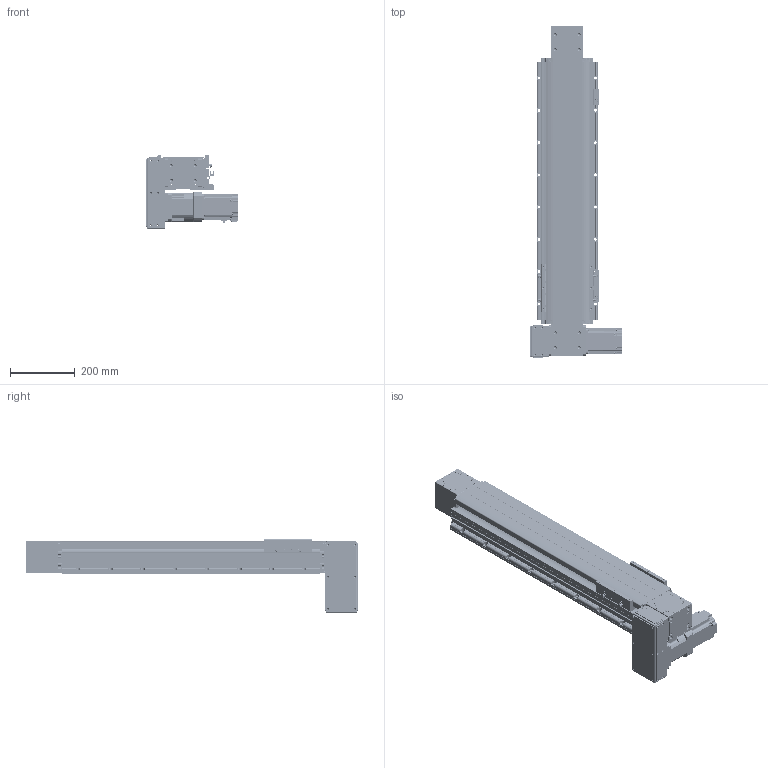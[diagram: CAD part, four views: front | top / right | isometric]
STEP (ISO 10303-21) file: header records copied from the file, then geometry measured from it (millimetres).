
FILE_DESCRIPTION(/* description */ (''),/* implementation_level */ '2;1');
FILE_NAME(/* name */ '\\192.168.0.160\disk1\HAN SHIN Master\B-설계부문\C-표준\B-2024년\BC02-표준도면\+로봇 개선표준도면\홈페이지 표준 도면\홈페이지 최종 작업 폴더\3D\HSB\HSB160\HSB160-DL7G-N-0600-R.stp',/* time_stamp */ '2025-01-10T08:48:31+09:00',/* author */ ('user'),/* organization */ (''),/* preprocessor_version */ 'ST-DEVELOPER v18.1',/* originating_system */ 'Autodesk Inventor 2022',/* authorisation */ '');
FILE_SCHEMA (('AUTOMOTIVE_DESIGN { 1 0 10303 214 3 1 1 }'));
Products named in the file (42): HSB160-DL7G-N-0500-R; BASE; HSB160 TABLE (TEST); FORNT HOUSUNG-1 (Connecting); UPCOVER; HSB160 COVER-1; REAR HOUSUNG-1---; HSB160 REAR SHAFT-2; REAR SHAFT--2; 6004ZZ; 6004ZZ Outer ring; 6004ZZ Shield1; 6004ZZ Inner ring; 6004ZZ Ball; 6004ZZ Shield2; STOPPER3; TENSION PLATE; HSB160 ARC COVER; hsr_ftht_A-M6F_grease_nipple_joint; NIPPLE CAP(신규); SIDE COVER; hg-kr73_; PGX90-H-1_3; HSB160 BEARING OVER; HSB160 END COVER; HSB160 SHAFT-1; 6206ZZ; 6206ZZ Outer ring; 6206ZZ Shield1; 6206ZZ Inner ring; 6206ZZ Ball; 6206ZZ Shield2; HR120 SENSOR DOG; SENSOR BRK(EE-SX674A); EE_SX674A; D MOTOR PLATE ASSY; HSB160 D MOTOR PLATE; HR160 400W LR BELT COVER; 750W MOTOR PLATE; HR180 ACRYL COVER - 1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
Assembly tree (87 placements, depth 3):
  HSB160-DL7G-N-0500-R
    BASE
    HSB160 TABLE (TEST)
    FORNT HOUSUNG-1 (Connecting)
    UPCOVER
    HSB160 COVER-1  x2
    REAR HOUSUNG-1---
    6004ZZ  x2
      6004ZZ Outer ring
      6004ZZ Shield1
      6004ZZ Inner ring
      6004ZZ Ball
      6004ZZ Shield2
    HSB160 REAR SHAFT-2
    REAR SHAFT--2
    TENSION PLATE  x2
    HSB160 ARC COVER  x4
    STOPPER3  x4
    SIDE COVER  x2
    hsr_ftht_A-M6F_grease_nipple_joint  x4
    NIPPLE CAP(신규)  x4
    hg-kr73_
    PGX90-H-1_3
    HSB160 BEARING OVER
    HSB160 END COVER
    6206ZZ  x2
      6206ZZ Outer ring
      6206ZZ Shield1
      6206ZZ Inner ring
      6206ZZ Ball
      6206ZZ Shield2
    HSB160 SHAFT-1
    HR120 SENSOR DOG
    SENSOR BRK(EE-SX674A)  x3
    EE_SX674A  x3
    D MOTOR PLATE ASSY
      HSB160 D MOTOR PLATE
      HR160 400W LR BELT COVER
      750W MOTOR PLATE
      HR180 ACRYL COVER - 1_2  x2
      HR180 ACRYL COVER - 1
      HR180 ACRYL COVER - 1_1
Bounding box: 284.5 x 1028.5 x 226.5 mm (x, y, z)
Volume: 7681728.6 mm3; surface area: 2024926.7 mm2
Topology: 131 solids, 133 shells, 6458 faces, 17705 edges, 11642 vertices
Faces by surface type: plane 4514, cylinder 1397, cone 375, sphere 88, torus 59, bspline 25
Full cylindrical faces by diameter (mm): 2.013 x2, 2.459 x54, 3 x20, 3.242 x50, 3.4 x22, 3.5 x6, 4.134 x18, 4.2 x4, 4.5 x40, 4.917 x74, 5 x44, 5.1 x1, 5.5 x25, 5.6 x4, 5.9 x4, 6 x21, 6.5 x9, 6.6 x18, 6.8 x9, 7 x32, 7.6 x4, 8 x5, 8.376 x16, 8.433 x2, 9 x4, 9.5 x31, 10 x5, 11 x28, 15 x8, 18.5 x2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
Entity records: 117179 total; most frequent: CARTESIAN_POINT 22235, DIRECTION 19463, ORIENTED_EDGE 18878, EDGE_CURVE 9439, AXIS2_PLACEMENT_3D 6605, LINE 6253, VECTOR 6253, VERTEX_POINT 6243
